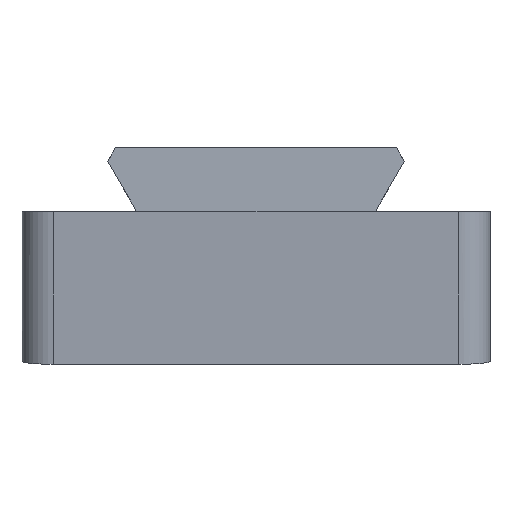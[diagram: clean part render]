
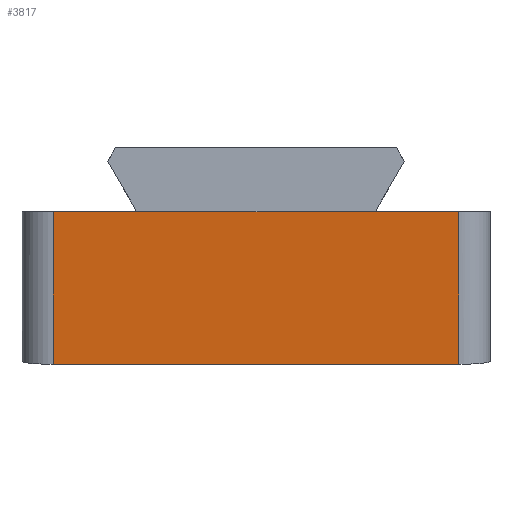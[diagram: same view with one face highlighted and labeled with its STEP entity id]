
A CAD part, left-side view. The second image highlights one B-rep face of the part: STEP entity #3817.
In plain terms, the highlighted planar face has unit normal (-0.996, 0, -0.087).
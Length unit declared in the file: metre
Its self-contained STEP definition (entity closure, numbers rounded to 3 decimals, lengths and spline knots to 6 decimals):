
#558=ORIENTED_EDGE('',*,*,#1518,.T.);
#559=ORIENTED_EDGE('',*,*,#1671,.T.);
#560=ORIENTED_EDGE('',*,*,#1448,.F.);
#561=ORIENTED_EDGE('',*,*,#1672,.T.);
#562=ORIENTED_EDGE('',*,*,#1530,.T.);
#563=ORIENTED_EDGE('',*,*,#1666,.T.);
#1448=EDGE_CURVE('',#2023,#2024,#2406,.T.);
#1518=EDGE_CURVE('',#2084,#2091,#2451,.T.);
#1530=EDGE_CURVE('',#2100,#2076,#2457,.T.);
#1666=EDGE_CURVE('',#2076,#2084,#2529,.T.);
#1671=EDGE_CURVE('',#2091,#2024,#2530,.T.);
#1672=EDGE_CURVE('',#2023,#2100,#2531,.F.);
#2023=VERTEX_POINT('',#5256);
#2024=VERTEX_POINT('',#5258);
#2076=VERTEX_POINT('',#5369);
#2084=VERTEX_POINT('',#5387);
#2091=VERTEX_POINT('',#5404);
#2100=VERTEX_POINT('',#5426);
#2406=LINE('',#5257,#2793);
#2451=LINE('',#5405,#2838);
#2457=LINE('',#5425,#2844);
#2529=LINE('',#5768,#2916);
#2530=LINE('',#5780,#2917);
#2531=LINE('',#5781,#2918);
#2793=VECTOR('',#4314,1.);
#2838=VECTOR('',#4429,1.);
#2844=VECTOR('',#4447,1.);
#2916=VECTOR('',#4587,1.);
#2917=VECTOR('',#4606,1.);
#2918=VECTOR('',#4607,1.);
#3219=EDGE_LOOP('',(#558,#559,#560,#561,#562,#563));
#3466=FACE_BOUND('',#3219,.T.);
#3688=PLANE('',#4109);
#3817=ADVANCED_FACE('',(#3466),#3688,.F.);
#4109=AXIS2_PLACEMENT_3D('',#5779,#4604,#4605);
#4314=DIRECTION('',(0.,1.,0.));
#4429=DIRECTION('',(0.,1.,0.));
#4447=DIRECTION('',(0.,1.,0.));
#4587=DIRECTION('',(0.,1.,0.));
#4604=DIRECTION('',(0.996,0.,0.087));
#4605=DIRECTION('',(0.087,0.,-0.996));
#4606=DIRECTION('',(0.087,0.,-0.996));
#4607=DIRECTION('',(0.087,0.,-0.996));
#5256=CARTESIAN_POINT('',(0.000855,-0.013,-0.009775));
#5257=CARTESIAN_POINT('',(0.000855,-0.015,-0.009775));
#5258=CARTESIAN_POINT('',(0.000855,0.013,-0.009775));
#5369=CARTESIAN_POINT('',(0.,-0.007695,0.));
#5387=CARTESIAN_POINT('',(0.,0.007695,0.));
#5404=CARTESIAN_POINT('',(0.,0.013,0.));
#5405=CARTESIAN_POINT('',(0.,-0.015,0.));
#5425=CARTESIAN_POINT('',(0.,-0.015,0.));
#5426=CARTESIAN_POINT('',(0.,-0.013,0.));
#5768=CARTESIAN_POINT('',(0.,0.,0.));
#5779=CARTESIAN_POINT('',(0.000428,-0.015,-0.004887));
#5780=CARTESIAN_POINT('',(0.000428,0.013,-0.004887));
#5781=CARTESIAN_POINT('',(0.,-0.013,0.));
